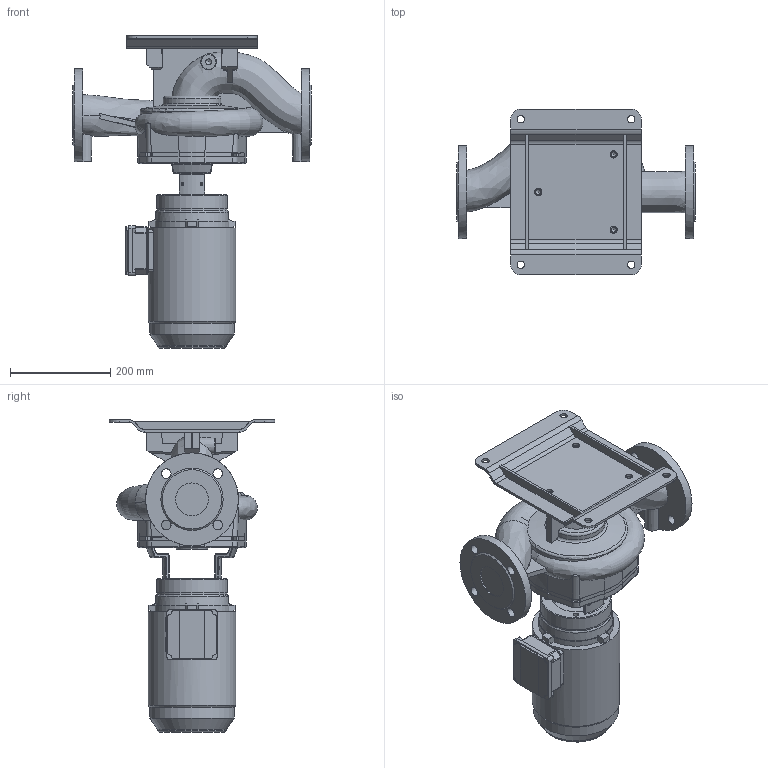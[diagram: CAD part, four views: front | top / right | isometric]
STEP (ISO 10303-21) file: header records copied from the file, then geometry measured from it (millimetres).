
FILE_DESCRIPTION (( 'STEP AP203' ), '1' );
FILE_NAME ('KI65-180_4_1,1kW.STEP', '2024-07-29T11:27:49', ( '' ), ( '' ), 'SwSTEP 2.0', 'SolidWorks 2023', '' );
FILE_SCHEMA (( 'CONFIG_CONTROL_DESIGN' ));
Length unit declared in the file: millimetre
Products named in the file (11): 230034; 220542; HMC3-90S-4P-B14_solid; 230031; 230482; KI65-180_4_1,1kW; 230033; 230415; 230414; 230481; 220543
Assembly tree (11 placements, depth 3):
  KI65-180_4_1,1kW
    HMC3-90S-4P-B14_solid
    230415
      230414
    230482
      230481
    220543
      220542
    230034
      230031
      230033  x2
Bounding box: 475 x 330.18 x 622.45 mm (x, y, z)
Volume: 16718672.5 mm3; surface area: 1087013.1 mm2
Topology: 7 solids, 7 shells, 841 faces, 2168 edges, 1334 vertices
Faces by surface type: plane 316, cylinder 273, bspline 91, torus 73, cone 66, sphere 22
Full cylindrical faces by diameter (mm): 5 x8, 6 x3, 6.8 x4, 7 x8, 10 x4, 10.2 x7, 11.8 x4, 14 x4, 14.5 x7, 19 x8, 65 x2, 95 x1, 136 x1, 140 x2, 150 x1, 168.6 x1, 174.6 x1, 185 x2, 186 x1, 189 x1
Entity records: 45999 total; most frequent: CARTESIAN_POINT 25909, ORIENTED_EDGE 3940, DIRECTION 3824, EDGE_CURVE 1970, AXIS2_PLACEMENT_3D 1480, VERTEX_POINT 1276, EDGE_LOOP 1030, FACE_OUTER_BOUND 907
